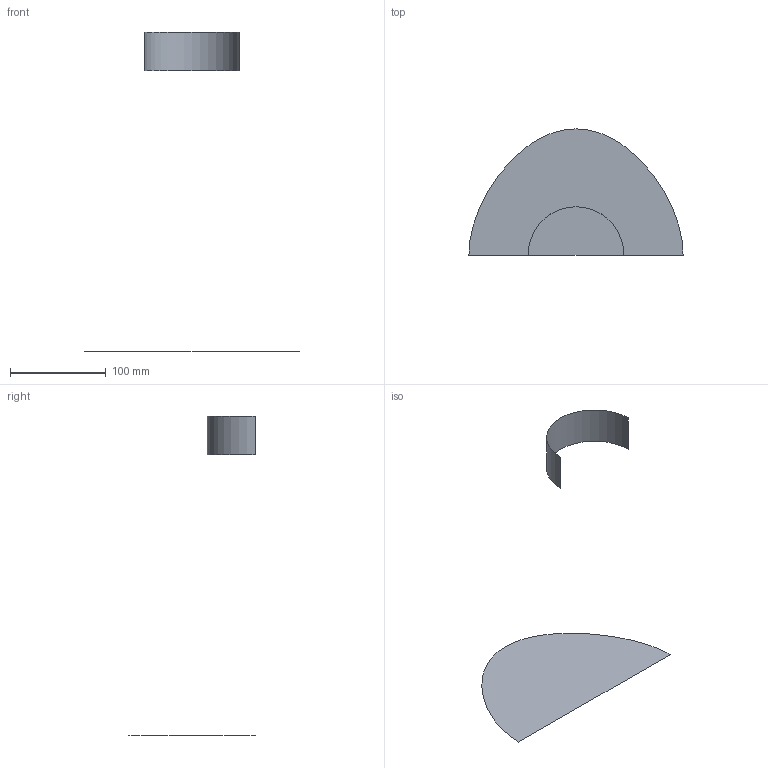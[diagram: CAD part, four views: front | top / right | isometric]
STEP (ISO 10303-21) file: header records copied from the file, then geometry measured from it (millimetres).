
FILE_DESCRIPTION(('CATIA V5 STEP Exchange'),'2;1');
FILE_NAME('C:\_Andres\UNIVERSIDAD\IQS\ASIGNATURAS\DAO\Controles\1617\c1\1original\Pascual_Sarrias_Ej00-base_v22.stp','2017-02-06T16:27:47+00:00',('none'),('none'),'CATIA Version 5-6 Release 2014 SP1 HF18','CATIA V5 STEP AP203','none');
FILE_SCHEMA(('CONFIG_CONTROL_DESIGN'));
Length unit declared in the file: millimetre
Products named in the file (1): Pascual_Sarrias_Ej00-base_v22
Bounding box: 224 x 132 x 334 mm (x, y, z)
Surface area: 28545.4 mm2 (no closed solid volume)
Topology: 0 solids, 2 shells, 2 faces, 16 edges, 26 vertices
Faces by surface type: cylinder 1, plane 1
Entity records: 230 total; most frequent: CARTESIAN_POINT 78, DIRECTION 16, COMPOSITE_CURVE_SEGMENT 9, TRIMMED_CURVE 9, AXIS2_PLACEMENT_3D 8, COMPOSITE_CURVE 7, ORIENTED_EDGE 7, EDGE_CURVE 7
